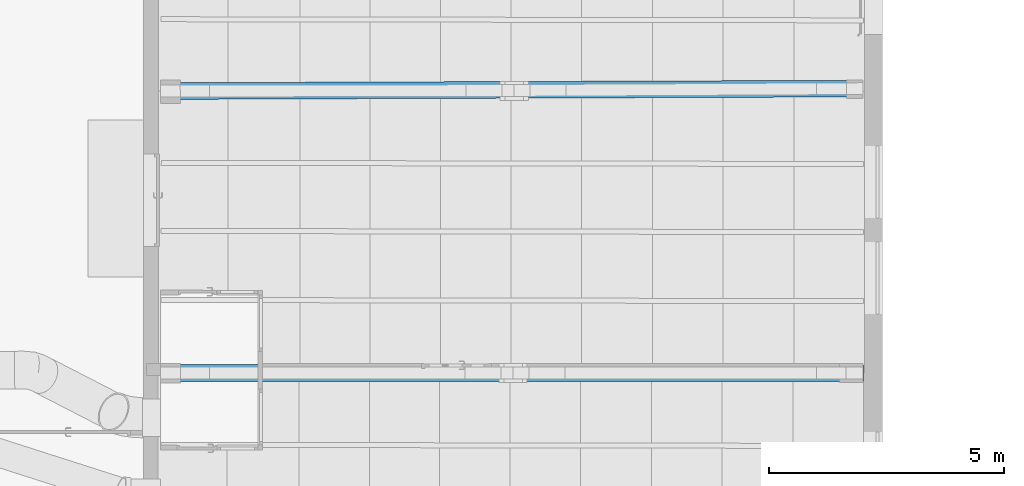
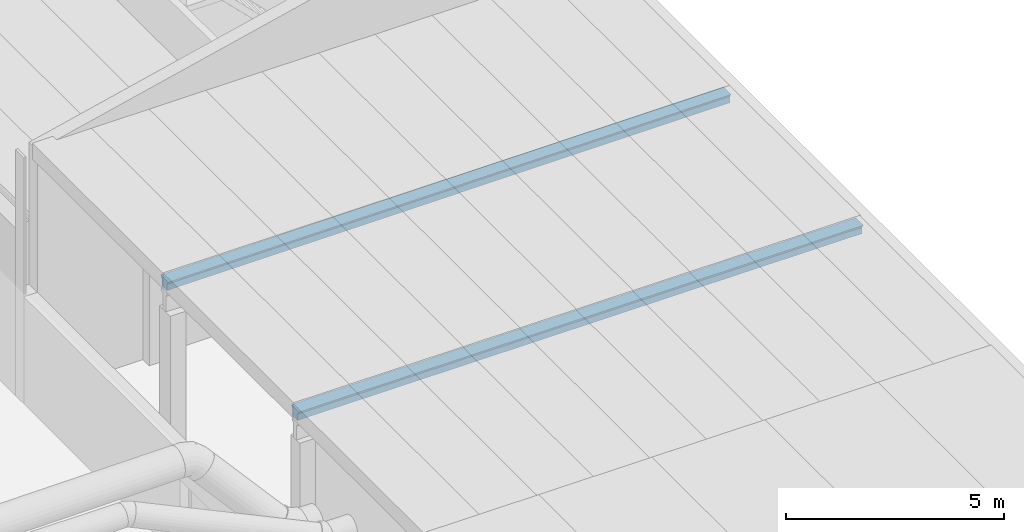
# One storey, part 137 of 301: 2 walls.
"""IFC2X3 building model written with IfcOpenShell, lengths in millimetres."""

from ifc_helpers import new_model, entity, si_unit, converted_unit, derived_unit, money_unit, direction, frame, origin_with_axes, place, context, subcontext, project, spatial, faceted_brep, material, type_object, element, save


model = new_model("IFC2X3")

# Units and contexts
model_context = context("Model", 3, precision=0.01, world=origin_with_axes(), true_north=direction((0.0, 1.0)))
body_context = subcontext(model_context, "Body", "Model", "MODEL_VIEW")
ifc_project = project(units=[si_unit("LENGTHUNIT", "METRE", prefix="MILLI"), si_unit("AREAUNIT", "SQUARE_METRE"), si_unit("VOLUMEUNIT", "CUBIC_METRE"), converted_unit("PLANEANGLEUNIT", "DEGREE", entity("IfcPlaneAngleMeasure", 0.0174532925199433), si_unit("PLANEANGLEUNIT", "RADIAN"), dimensions=[0, 0, 0, 0, 0, 0, 0]), money_unit("EUR"), converted_unit("TIMEUNIT", "Year", entity("IfcTimeMeasure", 31557600.0), si_unit("TIMEUNIT", "SECOND"), dimensions=[0, 0, 1, 0, 0, 0, 0]), si_unit("MASSUNIT", "GRAM", prefix="KILO"), si_unit("THERMODYNAMICTEMPERATUREUNIT", "DEGREE_CELSIUS"), si_unit("LUMINOUSINTENSITYUNIT", "LUMEN"), si_unit("ENERGYUNIT", "JOULE", prefix="MEGA"), derived_unit("THERMALCONDUCTANCEUNIT", [(si_unit("POWERUNIT", "WATT"), 1), (si_unit("LENGTHUNIT", "METRE"), -1), (si_unit("THERMODYNAMICTEMPERATUREUNIT", "KELVIN"), -1)]), derived_unit("SPECIFICHEATCAPACITYUNIT", [(si_unit("ENERGYUNIT", "JOULE"), 1), (si_unit("MASSUNIT", "GRAM", prefix="KILO"), -1), (si_unit("THERMODYNAMICTEMPERATUREUNIT", "KELVIN"), -1)]), derived_unit("MASSDENSITYUNIT", [(si_unit("MASSUNIT", "GRAM", prefix="KILO"), 1), (si_unit("VOLUMEUNIT", "CUBIC_METRE"), -1)])], contexts=[model_context])

# Site, building, storey
site_placement = place(None, frame((0.0, 0.0, 8650.0), z_axis=(0.0, 0.0, 1.0), x_axis=(1.0, 0.0, 0.0)))
site = spatial("IfcSite", under=ifc_project, at=site_placement, Name="43301:001:0844", CompositionType="ELEMENT")
building_placement = place(site_placement, origin_with_axes())
building = spatial("IfcBuilding", under=site, at=building_placement, Name="Kuressaare Ametikooli tuulikute mehaanikute õppekorpus", CompositionType="ELEMENT")
storey_placement = place(building_placement, origin_with_axes())
storey = spatial("IfcBuildingStorey", under=building, at=storey_placement, Name="1.korrus", CompositionType="ELEMENT", Elevation=0.0)

# Walls
ifc_material = material(Name="GENEERILINE - KONSTRUKTRIOON")
wall_type = type_object("IfcWallType", Name="Precast Single Tee 3 356 x 275", PredefinedType="NOTDEFINED")
wall_1_placement = place(storey_placement, frame((88258.76294320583, 50089.52178805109, 6930.176500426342), z_axis=(0.0, 0.0, 1.0), x_axis=(-0.0002791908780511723, -0.9999999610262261, 0.0)))
element("IfcWall", 1, at=wall_1_placement, inside=storey, type_object=wall_type, material=ifc_material, context=body_context, shape_type="Brep", body=[
    faceted_brep([(109.5797971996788, 0.0, -97.60896852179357), (109.5797971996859, 14977.11539428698, -97.60896852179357), (135.1717868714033, 14977.11539428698, -52.54830876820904), (135.1717868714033, 0.0, -52.54830876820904), (109.5792594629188, 0.0, -275.17670986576), (109.5792594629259, 14977.11539428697, -275.17670986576), (-109.5792594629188, 14977.11539428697, -275.17670986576), (-109.5797971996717, 14977.11539428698, -97.60896852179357), (-135.1717868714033, 14977.11539428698, -52.54830876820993), (-166.8442636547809, 14977.11539428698, -11.53285793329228), (-177.8068114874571, 14977.11539428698, 0.0), (177.8068114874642, 14977.11539428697, 0.0), (166.844263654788, 14977.11539428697, -11.5328579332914), (166.844263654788, 0.0, -11.5328579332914), (177.8068114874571, 0.0, 0.0), (-177.8068114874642, 0.0, 0.0), (-166.8442636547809, 0.0, -11.53285793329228), (-135.1717868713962, 0.0, -52.54830876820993), (-109.5797971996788, 0.0, -97.60896852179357), (-109.5792594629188, 0.0, -275.17670986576)], [[[0, 1, 2, 3]], [[4, 5, 1, 0]], [[2, 1, 5, 6, 7, 8, 9, 10, 11, 12]], [[3, 2, 12, 13]], [[4, 0, 3, 13, 14, 15, 16, 17, 18, 19]], [[19, 6, 5, 4]], [[18, 7, 6, 19]], [[17, 8, 7, 18]], [[16, 9, 8, 17]], [[15, 10, 9, 16]], [[14, 11, 10, 15]], [[13, 12, 11, 14]]]),
])
wall_2_placement = place(storey_placement, frame((88258.75644683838, 56094.45077743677, 6930.176495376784), z_axis=(0.0, 0.0, 1.0), x_axis=(0.003600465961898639, -0.9999935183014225, 0.0)))
element("IfcWall", 2, at=wall_2_placement, inside=storey, type_object=wall_type, material=ifc_material, context=body_context, shape_type="Brep", body=[
    faceted_brep([(109.5797971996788, 0.0, -97.60896852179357), (109.5797971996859, 14969.23800787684, -97.60896852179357), (135.1717868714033, 14969.23800787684, -52.54830876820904), (135.1717868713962, 0.0, -52.54830876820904), (109.5792594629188, 0.0, -275.17670986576), (109.5792594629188, 14969.23800787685, -275.17670986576), (-109.5792594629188, 14969.23800787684, -275.17670986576), (-109.5797971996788, 14969.23800787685, -97.60896852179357), (-135.1717868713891, 14969.23800787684, -52.54830876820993), (-166.844263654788, 14969.23800787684, -11.53285793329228), (-177.8068114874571, 14969.23800787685, 0.0), (177.8068114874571, 14969.23800787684, 0.0), (166.8442636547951, 14969.23800787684, -11.5328579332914), (166.844263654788, 0.0, -11.5328579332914), (177.8068114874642, 0.0, 0.0), (-177.8068114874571, 0.0, 0.0), (-166.8442636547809, 0.0, -11.53285793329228), (-135.1717868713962, 0.0, -52.54830876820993), (-109.5797971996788, 0.0, -97.60896852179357), (-109.5792594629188, 0.0, -275.17670986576)], [[[0, 1, 2, 3]], [[4, 5, 1, 0]], [[2, 1, 5, 6, 7, 8, 9, 10, 11, 12]], [[3, 2, 12, 13]], [[4, 0, 3, 13, 14, 15, 16, 17, 18, 19]], [[19, 6, 5, 4]], [[18, 7, 6, 19]], [[17, 8, 7, 18]], [[16, 9, 8, 17]], [[15, 10, 9, 16]], [[14, 11, 10, 15]], [[13, 12, 11, 14]]]),
])

save(model, "model.ifc")
